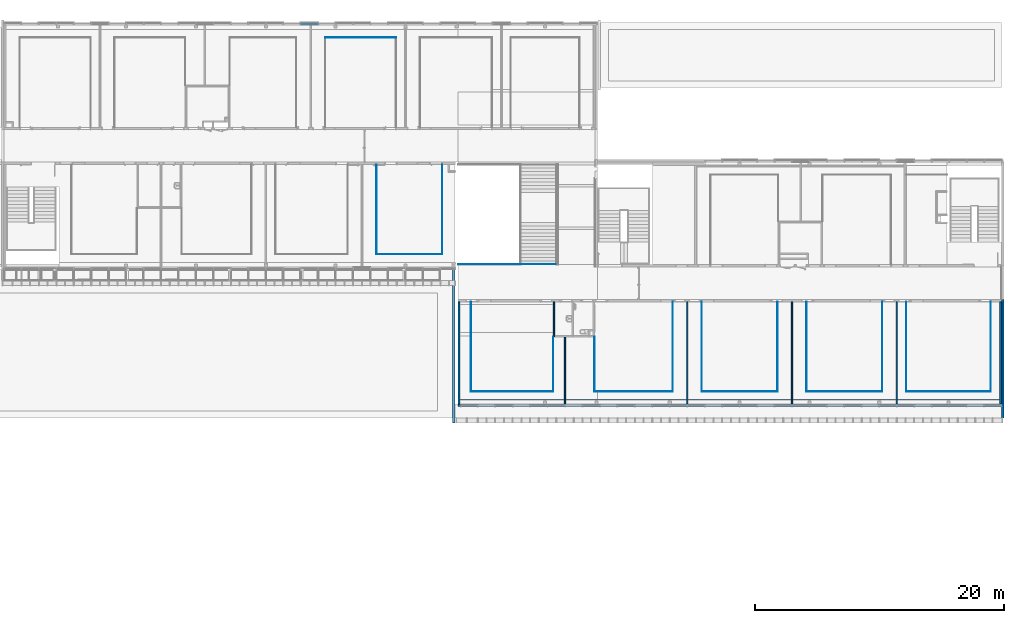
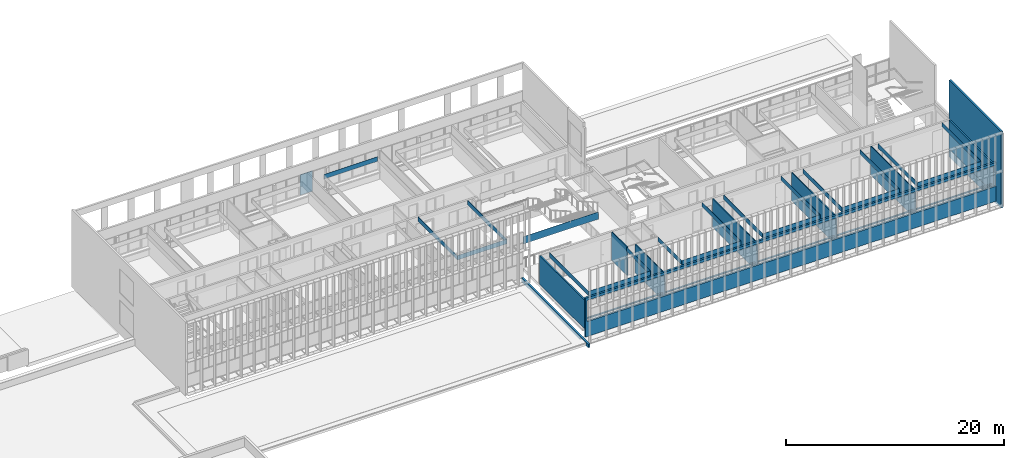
# One storey, part 64 of 106: 32 walls, 3 openings.
"""IFC2X3 building model written with IfcOpenShell, lengths in centimetres."""

from ifc_helpers import new_model, entity, si_unit, converted_unit, derived_unit, direction, frame, frame_2d, origin, origin_2d_with_axis, place, context, subcontext, project, spatial, polyline, rectangle, extrude, clip, bounded_halfspace, material, layer, layer_set, layer_usage, type_object, element, save


model = new_model("IFC2X3")

# Units and contexts
model_context = context("Model", 3, precision=0.001, world=origin(), true_north=direction((6.12303176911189e-17, 1.0)))
body_context = subcontext(model_context, "Body", "Model", "MODEL_VIEW")
ifc_project = project(units=[si_unit("LENGTHUNIT", "METRE", prefix="CENTI"), si_unit("AREAUNIT", "SQUARE_METRE"), si_unit("VOLUMEUNIT", "CUBIC_METRE"), converted_unit("PLANEANGLEUNIT", "DEGREE", entity("IfcRatioMeasure", 0.0174532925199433), si_unit("PLANEANGLEUNIT", "RADIAN"), dimensions=[0, 0, 0, 0, 0, 0, 0]), si_unit("MASSUNIT", "GRAM", prefix="KILO"), derived_unit("MASSDENSITYUNIT", [(si_unit("MASSUNIT", "GRAM", prefix="KILO"), 1), (si_unit("LENGTHUNIT", "METRE"), -3)]), si_unit("TIMEUNIT", "SECOND"), si_unit("FREQUENCYUNIT", "HERTZ"), si_unit("THERMODYNAMICTEMPERATUREUNIT", "DEGREE_CELSIUS"), derived_unit("THERMALTRANSMITTANCEUNIT", [(si_unit("MASSUNIT", "GRAM", prefix="KILO"), 1), (si_unit("THERMODYNAMICTEMPERATUREUNIT", "KELVIN"), -1), (si_unit("TIMEUNIT", "SECOND"), -3)]), derived_unit("VOLUMETRICFLOWRATEUNIT", [(si_unit("LENGTHUNIT", "METRE"), 3), (si_unit("TIMEUNIT", "SECOND"), -1)]), si_unit("ELECTRICCURRENTUNIT", "AMPERE"), si_unit("ELECTRICVOLTAGEUNIT", "VOLT"), si_unit("POWERUNIT", "WATT"), si_unit("FORCEUNIT", "NEWTON", prefix="KILO"), si_unit("ILLUMINANCEUNIT", "LUX"), si_unit("LUMINOUSFLUXUNIT", "LUMEN"), si_unit("LUMINOUSINTENSITYUNIT", "CANDELA"), derived_unit("USERDEFINED", [(si_unit("MASSUNIT", "GRAM", prefix="KILO"), -1), (si_unit("LENGTHUNIT", "METRE"), -2), (si_unit("TIMEUNIT", "SECOND"), 3), (si_unit("LUMINOUSFLUXUNIT", "LUMEN"), 1)]), derived_unit("LINEARVELOCITYUNIT", [(si_unit("LENGTHUNIT", "METRE"), 1), (si_unit("TIMEUNIT", "SECOND"), -1)]), si_unit("PRESSUREUNIT", "PASCAL"), derived_unit("USERDEFINED", [(si_unit("LENGTHUNIT", "METRE"), -2), (si_unit("MASSUNIT", "GRAM", prefix="KILO"), 1), (si_unit("TIMEUNIT", "SECOND"), -2)])], contexts=[model_context])

# Site, building, storey
site_placement = place(None, frame((-2781.94577612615, 7442.24238424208, 0.0)))
site = spatial("IfcSite", under=ifc_project, at=site_placement, Name="Default", CompositionType="ELEMENT")
building_placement = place(site_placement, origin())
building = spatial("IfcBuilding", under=site, at=building_placement, CompositionType="ELEMENT")
storey_placement = place(building_placement, frame((0.0, 0.0, 422.0)))
storey = spatial("IfcBuildingStorey", under=building, at=storey_placement, Name="Toiture - Cuisine", CompositionType="ELEMENT", Elevation=421.999999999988)

# Wall, opening
ifc_material_1 = material(Name="Aluminium bardage")
ifc_layer_1 = layer(ifc_material_1, 0.5)
ifc_material_2 = material(Name="01 - Lame d'air")
ifc_layer_2 = layer(ifc_material_2, 1.5)
ifc_material_3 = material(Name="00 - Isolant")
ifc_layer_3 = layer(ifc_material_3, 18.0)
ifc_layer_set_1 = layer_set([ifc_layer_1, ifc_layer_2, ifc_layer_3], Name="Mur de base:04 - Parement - ITE 18cm + vide 2cm")
ifc_layer_usage_1 = layer_usage(ifc_layer_set_1, "AXIS2", "POSITIVE", -10.0)
wall_type_1 = type_object("IfcWallType", Name="Mur de base:04 - Parement - ITE 18cm + vide 2cm", PredefinedType="STANDARD", material=ifc_layer_set_1)
wall_1_placement = place(building_placement, frame((-4767.99987760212, -3040.31349958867, 338.0)))
wall_1 = element("IfcWallStandardCase", 1, at=wall_1_placement, inside=storey, type_object=wall_type_1, material=ifc_layer_usage_1, Name="Mur de base:04 - Parement - ITE 18cm + vide 2cm", ObjectType="Mur de base:04 - Parement - ITE 18cm + vide 2cm", context=body_context, shape_type="Clipping", body=[
    clip(extrude(rectangle(XDim=4357.99999476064, YDim=19.9999999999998, at=frame_2d((2178.99999738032, -2.66453525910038e-15), x_axis=(-1.0, 0.0))), origin(), (0.0, 0.0, 1.0), 436.0), bounded_halfspace(frame((4358.0, -10.0, 0.0), z_axis=(0.0, 0.0, 1.0), x_axis=(0.0, 1.0, 0.0)), True, frame((4358.0, -10.0, 0.0), z_axis=(0.0, 0.0, 1.0), x_axis=(0.0, 1.0, 0.0)), polyline([(0.0, 0.0), (20.0, 0.0), (20.0, 4358.0), (0.0, 4358.0), (0.0, 0.0)]))),
])
opening_1_placement = place(wall_1_placement, origin())
element("IfcOpeningElement", 2, at=opening_1_placement, cuts=wall_1, Name="Mur de base:04 - Parement - ITE 18cm + vide 2cm", ObjectType="Opening", context=body_context, shape_type="SweptSolid", body=[
    extrude(rectangle(XDim=237.499999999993, YDim=4340.30000003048, at=origin_2d_with_axis()), frame((2187.8499947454, -25.2400000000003, 286.250000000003), z_axis=(0.0, 1.0, 0.0), x_axis=(0.0, 0.0, 1.0)), (0.0, 0.0, 1.0), 50.4800000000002),
])

# Walls
ifc_layer_4 = layer(ifc_material_3, 14.0)
ifc_material_4 = material(Name="01 - Enduit/Plâtre")
ifc_layer_5 = layer(ifc_material_4, 1.3)
ifc_layer_set_2 = layer_set([ifc_layer_4, ifc_layer_5], Name="Mur de base:04 - Parement -  isolant 14 cm + BA13")
ifc_layer_usage_2 = layer_usage(ifc_layer_set_2, "AXIS2", "NEGATIVE", 7.65)
wall_type_2 = type_object("IfcWallType", Name="Mur de base:04 - Parement -  isolant 14 cm + BA13", PredefinedType="STANDARD", material=ifc_layer_set_2)
wall_2_placement = place(building_placement, frame((-4760.34987760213, -3030.31349958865, 422.0), z_axis=(0.0, 0.0, 1.0), x_axis=(0.0, 1.0, 0.0)))
element("IfcWallStandardCase", 3, at=wall_2_placement, inside=storey, type_object=wall_type_2, material=ifc_layer_usage_2, Name="Mur de base:04 - Parement -  isolant 14 cm + BA13", ObjectType="Mur de base:04 - Parement -  isolant 14 cm + BA13", context=body_context, shape_type="Clipping", body=[
    clip(extrude(rectangle(XDim=820.156932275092, YDim=15.3, at=frame_2d((410.078466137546, -2.08721928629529e-13), x_axis=(-1.0, 0.0))), origin(), (0.0, 0.0, 1.0), 321.0), bounded_halfspace(frame((20.0, -7.64999999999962, 321.0), z_axis=(0.0, 0.0, -1.0), x_axis=(1.0, 0.0, 0.0)), True, frame((20.0, -7.64999999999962, 321.0)), polyline([(0.0, 0.0), (800.15693227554, 0.0), (800.15693227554, 15.2999999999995), (0.0, 15.3), (0.0, 0.0)]))),
])
ifc_layer_usage_3 = layer_usage(ifc_layer_set_2, "AXIS2", "NEGATIVE", 7.65)
wall_3_placement = place(building_placement, frame((-417.649882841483, -2210.15656731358, 422.0), z_axis=(0.0, 0.0, 1.0), x_axis=(0.0, -1.0, 0.0)))
element("IfcWallStandardCase", 4, at=wall_3_placement, inside=storey, type_object=wall_type_2, material=ifc_layer_usage_3, Name="Mur de base:04 - Parement -  isolant 14 cm + BA13", ObjectType="Mur de base:04 - Parement -  isolant 14 cm + BA13", context=body_context, shape_type="Clipping", body=[
    clip(extrude(rectangle(XDim=820.156932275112, YDim=15.3, at=frame_2d((410.078466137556, -1.11022302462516e-14), x_axis=(-1.0, 0.0))), origin(), (0.0, 0.0, 1.0), 321.0), bounded_halfspace(frame((0.0, -7.64999999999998, 321.0), z_axis=(0.0, 0.0, -1.0), x_axis=(-1.0, 0.0, 0.0)), True, frame((0.0, -7.64999999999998, 321.0)), polyline([(0.0, 0.0), (800.156932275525, 0.0), (800.156932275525, 15.2999999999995), (0.0, 15.3), (0.0, 0.0)]))),
])

# Wall, openings
ifc_material_5 = material(Name="01 - Maçonnerie")
ifc_layer_6 = layer(ifc_material_5, 20.0)
ifc_layer_set_3 = layer_set([ifc_layer_6], Name="Mur de base:04 - Structure - béton - 20cm")
ifc_layer_usage_4 = layer_usage(ifc_layer_set_3, "AXIS2", "NEGATIVE", 10.0)
wall_type_3 = type_object("IfcWallType", Name="Mur de base:04 - Structure - béton - 20cm", PredefinedType="STANDARD", material=ifc_layer_set_3)
wall_4_placement = place(building_placement, frame((-399.999882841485, -3140.31349958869, 313.0), z_axis=(0.0, 0.0, 1.0), x_axis=(0.0, 1.0, 0.0)))
wall_4 = element("IfcWallStandardCase", 5, at=wall_4_placement, inside=storey, type_object=wall_type_3, material=ifc_layer_usage_4, Name="Mur de base:04 - Structure - béton - 20cm", ObjectType="Mur de base:04 - Structure - béton - 20cm", context=body_context, shape_type="SweptSolid", body=[
    extrude(rectangle(XDim=950.2344659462, YDim=20.0, at=frame_2d((475.1172329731, 0.0), x_axis=(-1.0, 0.0))), origin(), (0.0, 0.0, 1.0), 863.0),
])
opening_2_placement = place(wall_4_placement, origin())
element("IfcOpeningElement", 6, at=opening_2_placement, cuts=wall_4, Name="Mur de base:04 - Structure - béton - 20cm", ObjectType="Opening", context=body_context, shape_type="SweptSolid", body=[
    extrude(rectangle(XDim=270.0, YDim=260.077533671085, at=frame_2d((-4.2632564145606e-14, -9.9475983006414e-14), x_axis=(1.0, 0.0))), frame((1080.19569911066, -162.399999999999, 244.0), z_axis=(0.0, 1.0, 0.0), x_axis=(0.0, 0.0, 1.0)), (0.0, 0.0, 1.0), 304.8),
])
opening_3_placement = place(wall_4_placement, origin())
element("IfcOpeningElement", 7, at=opening_3_placement, cuts=wall_4, Name="Mur de base:04 - Structure - béton - 20cm", ObjectType="Opening", context=body_context, shape_type="SweptSolid", body=[
    extrude(rectangle(XDim=270.0, YDim=260.0, at=frame_2d((2.27373675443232e-13, 0.0), x_axis=(0.0, 1.0))), frame((1080.2344659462, -162.400000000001, 596.0), z_axis=(0.0, 1.0, 0.0), x_axis=(-1.0, 0.0, 0.0)), (0.0, 0.0, 1.0), 304.8),
])

# Walls
ifc_layer_usage_5 = layer_usage(ifc_layer_set_3, "AXIS2", "NEGATIVE", 10.0)
wall_5_placement = place(building_placement, frame((-4801.99987760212, -1950.07903364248, 313.0), z_axis=(0.0, 0.0, 1.0), x_axis=(0.0, -1.0, 0.0)))
element("IfcWallStandardCase", 8, at=wall_5_placement, inside=storey, type_object=wall_type_3, material=ifc_layer_usage_5, Name="Mur de base:04 - Structure - béton - 20cm", ObjectType="Mur de base:04 - Structure - béton - 20cm", context=body_context, shape_type="Clipping", body=[
    clip(extrude(rectangle(XDim=1230.2344659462, YDim=20.0000000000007, at=frame_2d((615.117232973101, 1.19904086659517e-13), x_axis=(-1.0, 0.0))), origin(), (0.0, 0.0, 1.0), 40.0), bounded_halfspace(frame((1190.2344659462, 10.0, 25.0), z_axis=(0.0, 0.0, 1.0), x_axis=(-1.0, 0.0, 0.0)), True, frame((1190.2344659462, 10.0, 25.0), z_axis=(0.0, 0.0, 1.0), x_axis=(-1.0, 0.0, 0.0)), polyline([(0.0, 0.0), (110.0, 0.0), (110.0, 20.0), (0.0, 20.0), (0.0, 0.0)]))),
])
ifc_layer_7 = layer(ifc_material_4, 1.3)
ifc_layer_8 = layer(ifc_material_3, 7.4)
ifc_layer_9 = layer(ifc_material_4, 1.3)
ifc_layer_set_4 = layer_set([ifc_layer_7, ifc_layer_8, ifc_layer_9], Name="Mur de base:06 - cloisons - Ba13 10cm")
ifc_layer_usage_6 = layer_usage(ifc_layer_set_4, "AXIS2", "NEGATIVE", 5.0)
wall_type_4 = type_object("IfcWallType", Name="Mur de base:06 - cloisons - Ba13 10cm", PredefinedType="STANDARD", material=ifc_layer_set_4)
wall_6_placement = place(building_placement, frame((-1250.29988284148, -2210.15656731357, 422.0), z_axis=(0.0, 0.0, 1.0), x_axis=(0.0, -1.0, 0.0)))
element("IfcWallStandardCase", 9, at=wall_6_placement, inside=storey, type_object=wall_type_4, material=ifc_layer_usage_6, Name="Mur de base:06 - cloisons - Ba13 10cm", ObjectType="Mur de base:06 - cloisons - Ba13 10cm", context=body_context, shape_type="Clipping", body=[
    clip(extrude(rectangle(XDim=820.156932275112, YDim=9.99999999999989, at=frame_2d((410.078466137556, 2.30926389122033e-14), x_axis=(-1.0, 0.0))), origin(), (0.0, 0.0, 1.0), 321.0), bounded_halfspace(frame((0.0, -5.0, 321.0), z_axis=(0.0, 0.0, -1.0), x_axis=(-1.0, 0.0, 0.0)), True, frame((0.0, -5.0, 321.0)), polyline([(0.0, 0.0), (800.156932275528, 0.0), (800.156932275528, 10.0), (0.0, 10.0), (0.0, 0.0)]))),
])
ifc_layer_usage_7 = layer_usage(ifc_layer_set_4, "AXIS2", "NEGATIVE", 5.0)
wall_7_placement = place(building_placement, frame((-2090.29988284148, -2210.15656731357, 422.0), z_axis=(0.0, 0.0, 1.0), x_axis=(0.0, -1.0, 0.0)))
element("IfcWallStandardCase", 10, at=wall_7_placement, inside=storey, type_object=wall_type_4, material=ifc_layer_usage_7, Name="Mur de base:06 - cloisons - Ba13 10cm", ObjectType="Mur de base:06 - cloisons - Ba13 10cm", context=body_context, shape_type="Clipping", body=[
    clip(extrude(rectangle(XDim=820.156932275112, YDim=10.0000000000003, at=frame_2d((410.078466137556, 1.59872115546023e-14), x_axis=(-1.0, 0.0))), origin(), (0.0, 0.0, 1.0), 321.0), bounded_halfspace(frame((0.0, -5.0, 321.0), z_axis=(0.0, 0.0, -1.0), x_axis=(-1.0, 0.0, 0.0)), True, frame((0.0, -5.0, 321.0)), polyline([(0.0, 0.0), (800.156932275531, 0.0), (800.156932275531, 10.0), (0.0, 10.0), (0.0, 0.0)]))),
])
ifc_layer_usage_8 = layer_usage(ifc_layer_set_4, "AXIS2", "NEGATIVE", 5.0)
wall_8_placement = place(building_placement, frame((-2930.29988284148, -2210.15656731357, 422.0), z_axis=(0.0, 0.0, 1.0), x_axis=(0.0, -1.0, 0.0)))
element("IfcWallStandardCase", 11, at=wall_8_placement, inside=storey, type_object=wall_type_4, material=ifc_layer_usage_8, Name="Mur de base:06 - cloisons - Ba13 10cm", ObjectType="Mur de base:06 - cloisons - Ba13 10cm", context=body_context, shape_type="Clipping", body=[
    clip(extrude(rectangle(XDim=820.156932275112, YDim=10.0000000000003, at=frame_2d((410.078466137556, 1.59872115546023e-14), x_axis=(-1.0, 0.0))), origin(), (0.0, 0.0, 1.0), 321.0), bounded_halfspace(frame((0.0, -5.0, 321.0), z_axis=(0.0, 0.0, -1.0), x_axis=(-1.0, 0.0, 0.0)), True, frame((0.0, -5.0, 321.0)), polyline([(0.0, 0.0), (800.156932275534, 0.0), (800.156932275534, 10.0), (0.0, 10.0), (0.0, 0.0)]))),
])
ifc_layer_usage_9 = layer_usage(ifc_layer_set_4, "AXIS2", "NEGATIVE", 5.0)
wall_9_placement = place(building_placement, frame((-3999.19987760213, -2210.15656731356, 422.0), z_axis=(0.0, 0.0, 1.0), x_axis=(0.0, -1.0, 0.0)))
element("IfcWallStandardCase", 12, at=wall_9_placement, inside=storey, type_object=wall_type_4, material=ifc_layer_usage_9, Name="Mur de base:06 - cloisons - Ba13 10cm", ObjectType="Mur de base:06 - cloisons - Ba13 10cm", context=body_context, shape_type="Clipping", body=[
    clip(extrude(rectangle(XDim=280.0, YDim=9.99999999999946, at=frame_2d((140.0, 0.0), x_axis=(-1.0, 0.0))), origin(), (0.0, 0.0, 1.0), 321.0), bounded_halfspace(frame((0.0, -5.0, 321.0), z_axis=(0.0, 0.0, -1.0), x_axis=(-1.0, 0.0, 0.0)), True, frame((0.0, -5.0, 321.0)), polyline([(0.0, 0.0), (280.0, 0.0), (280.0, 10.0), (270.0, 10.0), (0.0, 10.0), (0.0, 0.0)]))),
])
ifc_layer_usage_10 = layer_usage(ifc_layer_set_4, "AXIS2", "NEGATIVE", 5.0)
wall_10_placement = place(building_placement, frame((-3910.29988284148, -3030.31349958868, 422.0), z_axis=(0.0, 0.0, 1.0), x_axis=(0.0, 1.0, 0.0)))
element("IfcWallStandardCase", 13, at=wall_10_placement, inside=storey, type_object=wall_type_4, material=ifc_layer_usage_10, Name="Mur de base:06 - cloisons - Ba13 10cm", ObjectType="Mur de base:06 - cloisons - Ba13 10cm", context=body_context, shape_type="Clipping", body=[
    clip(extrude(rectangle(XDim=540.156932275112, YDim=9.99999999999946, at=frame_2d((270.078466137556, -3.5527136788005e-15), x_axis=(-1.0, 0.0))), origin(), (0.0, 0.0, 1.0), 321.0), bounded_halfspace(frame((20.0, -5.0, 321.0), z_axis=(0.0, 0.0, -1.0), x_axis=(1.0, 0.0, 0.0)), True, frame((20.0, -5.0, 321.0)), polyline([(0.0, 0.0), (520.156932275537, 0.0), (520.156932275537, 10.0), (0.0, 10.0), (0.0, 0.0)]))),
])
ifc_layer_10 = layer(ifc_material_4, 1.3)
ifc_material_6 = material(Name="00 - VIDE D'AIR")
ifc_layer_11 = layer(ifc_material_6, 0.7)
ifc_layer_set_5 = layer_set([ifc_layer_10, ifc_layer_11], Name="Mur de base:06 - habillage Ba13 collée 2cm")
ifc_layer_usage_11 = layer_usage(ifc_layer_set_5, "AXIS2", "NEGATIVE", 1.0)
wall_type_5 = type_object("IfcWallType", Name="Mur de base:06 - habillage Ba13 collée 2cm", PredefinedType="STANDARD", material=ifc_layer_set_5)
wall_11_placement = place(building_placement, frame((-4767.99987760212, -1909.07903364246, 692.0)))
element("IfcWallStandardCase", 14, at=wall_11_placement, inside=storey, type_object=wall_type_5, material=ifc_layer_usage_11, Name="Mur de base:06 - habillage Ba13 collée 2cm", ObjectType="Mur de base:06 - habillage Ba13 collée 2cm", context=body_context, shape_type="SweptSolid", body=[
    extrude(rectangle(XDim=797.999997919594, YDim=1.99999999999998, at=frame_2d((398.999998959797, -8.04911692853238e-15), x_axis=(-1.0, 0.0))), origin(), (0.0, 0.0, 1.0), 82.0),
])
ifc_layer_usage_12 = layer_usage(ifc_layer_set_5, "AXIS2", "POSITIVE", -1.0)
wall_12_placement = place(building_placement, frame((-5263.78697672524, -91.0, 692.0), z_axis=(0.0, 0.0, 1.0), x_axis=(-1.0, 0.0, 0.0)))
element("IfcWallStandardCase", 15, at=wall_12_placement, inside=storey, type_object=wall_type_5, material=ifc_layer_usage_12, Name="Mur de base:06 - habillage Ba13 collée 2cm", ObjectType="Mur de base:06 - habillage Ba13 collée 2cm", context=body_context, shape_type="Clipping", body=[
    clip(extrude(rectangle(XDim=570.012902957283, YDim=2.00000000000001, at=frame_2d((285.006451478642, 4.44089209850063e-16), x_axis=(-1.0, 0.0))), origin(), (0.0, 0.0, 1.0), 50.9999999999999), bounded_halfspace(frame((0.0, -1.0, 51.0), z_axis=(0.0, 0.0, -1.0), x_axis=(0.0, -1.0, 0.0)), True, frame((0.0, -1.0, 51.0)), polyline([(0.0, 0.0), (570.012902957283, 0.0), (570.012902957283, 2.0), (568.012902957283, 2.0), (2.0, 2.0), (0.0, 2.0), (0.0, 0.0)]))),
])
ifc_layer_usage_13 = layer_usage(ifc_layer_set_5, "AXIS2", "POSITIVE", -1.0)
wall_13_placement = place(building_placement, frame((-4895.49987760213, -1830.07903364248, 692.0), z_axis=(0.0, 0.0, 1.0), x_axis=(0.0, 1.0, 0.0)))
element("IfcWallStandardCase", 16, at=wall_13_placement, inside=storey, type_object=wall_type_5, material=ifc_layer_usage_13, Name="Mur de base:06 - habillage Ba13 collée 2cm", ObjectType="Mur de base:06 - habillage Ba13 collée 2cm", context=body_context, shape_type="Clipping", body=[
    clip(extrude(rectangle(XDim=720.079033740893, YDim=1.99999999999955, at=frame_2d((360.039516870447, -5.93969318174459e-15), x_axis=(-1.0, 0.0))), origin(), (0.0, 0.0, 1.0), 50.9999999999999), bounded_halfspace(frame((0.0, -1.0, 51.0), z_axis=(0.0, 0.0, -1.0), x_axis=(1.0, 0.0, 0.0)), True, frame((0.0, -1.0, 51.0)), polyline([(0.0, 0.0), (720.079033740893, 0.0), (720.079033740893, 2.0), (2.0, 2.0), (0.0, 2.0), (0.0, 0.0)]))),
])
ifc_layer_usage_14 = layer_usage(ifc_layer_set_5, "AXIS2", "POSITIVE", -1.0)
wall_14_placement = place(building_placement, frame((-5421.49987760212, -1110.0, 692.0), z_axis=(0.0, 0.0, 1.0), x_axis=(0.0, -1.0, 0.0)))
element("IfcWallStandardCase", 17, at=wall_14_placement, inside=storey, type_object=wall_type_5, material=ifc_layer_usage_14, Name="Mur de base:06 - habillage Ba13 collée 2cm", ObjectType="Mur de base:06 - habillage Ba13 collée 2cm", context=body_context, shape_type="Clipping", body=[
    clip(extrude(rectangle(XDim=720.079033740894, YDim=1.99999999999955, at=frame_2d((360.039516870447, -5.93969318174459e-15), x_axis=(-1.0, 0.0))), origin(), (0.0, 0.0, 1.0), 50.9999999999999), bounded_halfspace(frame((0.0, -1.0, 51.0), z_axis=(0.0, 0.0, -1.0), x_axis=(-1.0, 0.0, 0.0)), True, frame((0.0, -1.0, 51.0)), polyline([(0.0, 0.0), (720.079033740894, 0.0), (720.079033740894, 2.0), (718.079033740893, 2.0), (0.0, 2.0), (0.0, 0.0)]))),
])
ifc_layer_usage_15 = layer_usage(ifc_layer_set_5, "AXIS2", "NEGATIVE", 1.0)
wall_15_placement = place(building_placement, frame((-5420.49987760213, -1829.07903364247, 692.0)))
element("IfcWallStandardCase", 18, at=wall_15_placement, inside=storey, type_object=wall_type_5, material=ifc_layer_usage_15, Name="Mur de base:06 - habillage Ba13 collée 2cm", ObjectType="Mur de base:06 - habillage Ba13 collée 2cm", context=body_context, shape_type="Clipping", body=[
    clip(extrude(rectangle(XDim=523.999999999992, YDim=1.99999999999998, at=frame_2d((261.999999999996, 6.16728890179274e-14), x_axis=(-1.0, 0.0))), origin(), (0.0, 0.0, 1.0), 50.9999999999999), bounded_halfspace(frame((0.0, -1.0, 51.0), z_axis=(0.0, 0.0, -1.0), x_axis=(0.0, 1.0, 0.0)), True, frame((0.0, -1.0, 51.0)), polyline([(0.0, 0.0), (524.0, 0.0), (524.0, 2.0), (0.0, 2.0), (0.0, 0.0)]))),
])
ifc_layer_usage_16 = layer_usage(ifc_layer_set_5, "AXIS2", "POSITIVE", -1.0)
wall_16_placement = place(building_placement, frame((-4664.19987760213, -2929.31349958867, 692.0)))
element("IfcWallStandardCase", 19, at=wall_16_placement, inside=storey, type_object=wall_type_5, material=ifc_layer_usage_16, Name="Mur de base:06 - habillage Ba13 collée 2cm", ObjectType="Mur de base:06 - habillage Ba13 collée 2cm", context=body_context, shape_type="Clipping", body=[
    clip(extrude(rectangle(XDim=658.000000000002, YDim=2.00000000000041, at=frame_2d((329.000000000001, 5.60662627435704e-14), x_axis=(-1.0, 0.0))), origin(), (0.0, 0.0, 1.0), 50.9999999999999), bounded_halfspace(frame((0.0, -1.0, 51.0), z_axis=(0.0, 0.0, -1.0), x_axis=(0.0, 1.0, 0.0)), True, frame((0.0, -1.0, 51.0)), polyline([(0.0, 0.0), (658.0, 0.0), (658.0, 2.0), (2.0, 2.0), (0.0, 2.0), (0.0, 0.0)]))),
])
ifc_layer_usage_17 = layer_usage(ifc_layer_set_5, "AXIS2", "POSITIVE", -1.0)
wall_17_placement = place(building_placement, frame((-4005.19987760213, -2930.31349958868, 692.0), z_axis=(0.0, 0.0, 1.0), x_axis=(0.0, 1.0, 0.0)))
element("IfcWallStandardCase", 20, at=wall_17_placement, inside=storey, type_object=wall_type_5, material=ifc_layer_usage_17, Name="Mur de base:06 - habillage Ba13 collée 2cm", ObjectType="Mur de base:06 - habillage Ba13 collée 2cm", context=body_context, shape_type="Clipping", body=[
    clip(extrude(rectangle(XDim=440.156932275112, YDim=1.99999999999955, at=frame_2d((220.078466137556, 9.43689570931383e-16), x_axis=(-1.0, 0.0))), origin(), (0.0, 0.0, 1.0), 50.9999999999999), bounded_halfspace(frame((0.0, -1.0, 51.0), z_axis=(0.0, 0.0, -1.0), x_axis=(1.0, 0.0, 0.0)), True, frame((0.0, -1.0, 51.0)), polyline([(0.0, 0.0), (440.156932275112, 0.0), (440.156932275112, 2.0), (2.0, 2.0), (0.0, 2.0), (0.0, 0.0)]))),
])
ifc_layer_usage_18 = layer_usage(ifc_layer_set_5, "AXIS2", "POSITIVE", -1.0)
wall_18_placement = place(building_placement, frame((-4663.19987760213, -2210.15656731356, 692.0), z_axis=(0.0, 0.0, 1.0), x_axis=(0.0, -1.0, 0.0)))
element("IfcWallStandardCase", 21, at=wall_18_placement, inside=storey, type_object=wall_type_5, material=ifc_layer_usage_18, Name="Mur de base:06 - habillage Ba13 collée 2cm", ObjectType="Mur de base:06 - habillage Ba13 collée 2cm", context=body_context, shape_type="Clipping", body=[
    clip(extrude(rectangle(XDim=718.156932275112, YDim=1.99999999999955, at=frame_2d((359.078466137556, 1.84297022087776e-14), x_axis=(-1.0, 0.0))), origin(), (0.0, 0.0, 1.0), 50.9999999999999), bounded_halfspace(frame((0.0, -1.0, 51.0), z_axis=(0.0, 0.0, -1.0), x_axis=(-1.0, 0.0, 0.0)), True, frame((0.0, -1.0, 51.0)), polyline([(0.0, 0.0), (718.156932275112, 0.0), (718.156932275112, 2.0), (0.0, 2.0), (0.0, 0.0)]))),
])
ifc_layer_usage_19 = layer_usage(ifc_layer_set_5, "AXIS2", "POSITIVE", -1.0)
wall_19_placement = place(building_placement, frame((-3675.29988284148, -2929.31349958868, 692.0)))
element("IfcWallStandardCase", 22, at=wall_19_placement, inside=storey, type_object=wall_type_5, material=ifc_layer_usage_19, Name="Mur de base:06 - habillage Ba13 collée 2cm", ObjectType="Mur de base:06 - habillage Ba13 collée 2cm", context=body_context, shape_type="Clipping", body=[
    clip(extrude(rectangle(XDim=627.999999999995, YDim=2.00000000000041, at=frame_2d((313.999999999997, 4.10782519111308e-15), x_axis=(-1.0, 0.0))), origin(), (0.0, 0.0, 1.0), 50.9999999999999), bounded_halfspace(frame((0.0, -1.0, 51.0), z_axis=(0.0, 0.0, -1.0), x_axis=(0.0, 1.0, 0.0)), True, frame((0.0, -1.0, 51.0)), polyline([(0.0, 0.0), (628.0, 0.0), (628.0, 2.0), (2.0, 2.0), (0.0, 2.0), (0.0, 0.0)]))),
])
ifc_layer_usage_20 = layer_usage(ifc_layer_set_5, "AXIS2", "POSITIVE", -1.0)
wall_20_placement = place(building_placement, frame((-3046.29988284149, -2930.31349958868, 692.0), z_axis=(0.0, 0.0, 1.0), x_axis=(0.0, 1.0, 0.0)))
element("IfcWallStandardCase", 23, at=wall_20_placement, inside=storey, type_object=wall_type_5, material=ifc_layer_usage_20, Name="Mur de base:06 - habillage Ba13 collée 2cm", ObjectType="Mur de base:06 - habillage Ba13 collée 2cm", context=body_context, shape_type="Clipping", body=[
    clip(extrude(rectangle(XDim=720.156932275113, YDim=2.00000000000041, at=frame_2d((360.078466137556, 1.37667655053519e-14), x_axis=(-1.0, 0.0))), origin(), (0.0, 0.0, 1.0), 50.9999999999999), bounded_halfspace(frame((0.0, -1.0, 51.0), z_axis=(0.0, 0.0, -1.0), x_axis=(1.0, 0.0, 0.0)), True, frame((0.0, -1.0, 51.0)), polyline([(0.0, 0.0), (720.156932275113, 0.0), (720.156932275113, 2.0), (2.0, 2.0), (0.0, 2.0), (0.0, 0.0)]))),
])
ifc_layer_usage_21 = layer_usage(ifc_layer_set_5, "AXIS2", "POSITIVE", -1.0)
wall_21_placement = place(building_placement, frame((-3674.29988284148, -2490.15656731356, 692.0), z_axis=(0.0, 0.0, 1.0), x_axis=(0.0, -1.0, 0.0)))
element("IfcWallStandardCase", 24, at=wall_21_placement, inside=storey, type_object=wall_type_5, material=ifc_layer_usage_21, Name="Mur de base:06 - habillage Ba13 collée 2cm", ObjectType="Mur de base:06 - habillage Ba13 collée 2cm", context=body_context, shape_type="Clipping", body=[
    clip(extrude(rectangle(XDim=438.156932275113, YDim=2.00000000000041, at=frame_2d((219.078466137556, 5.55111512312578e-16), x_axis=(-1.0, 0.0))), origin(), (0.0, 0.0, 1.0), 50.9999999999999), bounded_halfspace(frame((0.0, -1.0, 51.0), z_axis=(0.0, 0.0, -1.0), x_axis=(-1.0, 0.0, 0.0)), True, frame((0.0, -1.0, 51.0)), polyline([(0.0, 0.0), (438.156932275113, 0.0), (438.156932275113, 2.0), (0.0, 2.0), (0.0, 0.0)]))),
])
ifc_layer_usage_22 = layer_usage(ifc_layer_set_5, "AXIS2", "POSITIVE", -1.0)
wall_22_placement = place(building_placement, frame((-2815.29988284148, -2929.31349958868, 692.0)))
element("IfcWallStandardCase", 25, at=wall_22_placement, inside=storey, type_object=wall_type_5, material=ifc_layer_usage_22, Name="Mur de base:06 - habillage Ba13 collée 2cm", ObjectType="Mur de base:06 - habillage Ba13 collée 2cm", context=body_context, shape_type="Clipping", body=[
    clip(extrude(rectangle(XDim=607.999999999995, YDim=2.00000000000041, at=frame_2d((303.999999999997, -3.05311331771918e-14), x_axis=(-1.0, 0.0))), origin(), (0.0, 0.0, 1.0), 50.9999999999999), bounded_halfspace(frame((0.0, -1.0, 51.0), z_axis=(0.0, 0.0, -1.0), x_axis=(0.0, 1.0, 0.0)), True, frame((0.0, -1.0, 51.0)), polyline([(0.0, 0.0), (608.0, 0.0), (608.0, 2.0), (2.0, 2.0), (0.0, 2.0), (0.0, 0.0)]))),
])
ifc_layer_usage_23 = layer_usage(ifc_layer_set_5, "AXIS2", "POSITIVE", -1.0)
wall_23_placement = place(building_placement, frame((-2206.29988284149, -2930.31349958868, 692.0), z_axis=(0.0, 0.0, 1.0), x_axis=(0.0, 1.0, 0.0)))
element("IfcWallStandardCase", 26, at=wall_23_placement, inside=storey, type_object=wall_type_5, material=ifc_layer_usage_23, Name="Mur de base:06 - habillage Ba13 collée 2cm", ObjectType="Mur de base:06 - habillage Ba13 collée 2cm", context=body_context, shape_type="Clipping", body=[
    clip(extrude(rectangle(XDim=720.156932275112, YDim=2.00000000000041, at=frame_2d((360.078466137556, 1.37667655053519e-14), x_axis=(-1.0, 0.0))), origin(), (0.0, 0.0, 1.0), 50.9999999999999), bounded_halfspace(frame((0.0, -1.0, 51.0), z_axis=(0.0, 0.0, -1.0), x_axis=(1.0, 0.0, 0.0)), True, frame((0.0, -1.0, 51.0)), polyline([(0.0, 0.0), (720.156932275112, 0.0), (720.156932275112, 2.0), (2.0, 2.0), (0.0, 2.0), (0.0, 0.0)]))),
])
ifc_layer_usage_24 = layer_usage(ifc_layer_set_5, "AXIS2", "POSITIVE", -1.0)
wall_24_placement = place(building_placement, frame((-2814.29988284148, -2210.15656731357, 692.0), z_axis=(0.0, 0.0, 1.0), x_axis=(0.0, -1.0, 0.0)))
element("IfcWallStandardCase", 27, at=wall_24_placement, inside=storey, type_object=wall_type_5, material=ifc_layer_usage_24, Name="Mur de base:06 - habillage Ba13 collée 2cm", ObjectType="Mur de base:06 - habillage Ba13 collée 2cm", context=body_context, shape_type="Clipping", body=[
    clip(extrude(rectangle(XDim=718.156932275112, YDim=2.00000000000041, at=frame_2d((359.078466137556, 1.84297022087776e-14), x_axis=(-1.0, 0.0))), origin(), (0.0, 0.0, 1.0), 50.9999999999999), bounded_halfspace(frame((0.0, -1.0, 51.0), z_axis=(0.0, 0.0, -1.0), x_axis=(-1.0, 0.0, 0.0)), True, frame((0.0, -1.0, 51.0)), polyline([(0.0, 0.0), (718.156932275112, 0.0), (718.156932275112, 2.0), (0.0, 2.0), (0.0, 0.0)]))),
])
ifc_layer_usage_25 = layer_usage(ifc_layer_set_5, "AXIS2", "POSITIVE", -1.0)
wall_25_placement = place(building_placement, frame((-1975.29988284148, -2929.31349958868, 692.0)))
element("IfcWallStandardCase", 28, at=wall_25_placement, inside=storey, type_object=wall_type_5, material=ifc_layer_usage_25, Name="Mur de base:06 - habillage Ba13 collée 2cm", ObjectType="Mur de base:06 - habillage Ba13 collée 2cm", context=body_context, shape_type="Clipping", body=[
    clip(extrude(rectangle(XDim=607.999999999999, YDim=2.00000000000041, at=frame_2d((304.0, -3.05311331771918e-14), x_axis=(-1.0, 0.0))), origin(), (0.0, 0.0, 1.0), 50.9999999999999), bounded_halfspace(frame((0.0, -1.0, 51.0), z_axis=(0.0, 0.0, -1.0), x_axis=(0.0, 1.0, 0.0)), True, frame((0.0, -1.0, 51.0)), polyline([(0.0, 0.0), (608.0, 0.0), (608.0, 2.0), (2.0, 2.0), (0.0, 2.0), (0.0, 0.0)]))),
])
ifc_layer_usage_26 = layer_usage(ifc_layer_set_5, "AXIS2", "POSITIVE", -1.0)
wall_26_placement = place(building_placement, frame((-1366.29988284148, -2930.31349958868, 692.0), z_axis=(0.0, 0.0, 1.0), x_axis=(0.0, 1.0, 0.0)))
element("IfcWallStandardCase", 29, at=wall_26_placement, inside=storey, type_object=wall_type_5, material=ifc_layer_usage_26, Name="Mur de base:06 - habillage Ba13 collée 2cm", ObjectType="Mur de base:06 - habillage Ba13 collée 2cm", context=body_context, shape_type="Clipping", body=[
    clip(extrude(rectangle(XDim=720.156932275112, YDim=1.99999999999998, at=frame_2d((360.078466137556, 1.37112543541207e-14), x_axis=(-1.0, 0.0))), origin(), (0.0, 0.0, 1.0), 50.9999999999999), bounded_halfspace(frame((0.0, -1.0, 51.0), z_axis=(0.0, 0.0, -1.0), x_axis=(1.0, 0.0, 0.0)), True, frame((0.0, -1.0, 51.0)), polyline([(0.0, 0.0), (720.156932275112, 0.0), (720.156932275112, 2.0), (2.0, 2.0), (0.0, 2.0), (0.0, 0.0)]))),
])
ifc_layer_usage_27 = layer_usage(ifc_layer_set_5, "AXIS2", "POSITIVE", -1.0)
wall_27_placement = place(building_placement, frame((-1974.29988284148, -2210.15656731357, 692.0), z_axis=(0.0, 0.0, 1.0), x_axis=(0.0, -1.0, 0.0)))
element("IfcWallStandardCase", 30, at=wall_27_placement, inside=storey, type_object=wall_type_5, material=ifc_layer_usage_27, Name="Mur de base:06 - habillage Ba13 collée 2cm", ObjectType="Mur de base:06 - habillage Ba13 collée 2cm", context=body_context, shape_type="Clipping", body=[
    clip(extrude(rectangle(XDim=718.156932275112, YDim=2.00000000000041, at=frame_2d((359.078466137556, 1.84297022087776e-14), x_axis=(-1.0, 0.0))), origin(), (0.0, 0.0, 1.0), 50.9999999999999), bounded_halfspace(frame((0.0, -1.0, 51.0), z_axis=(0.0, 0.0, -1.0), x_axis=(-1.0, 0.0, 0.0)), True, frame((0.0, -1.0, 51.0)), polyline([(0.0, 0.0), (718.156932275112, 0.0), (718.156932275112, 2.0), (0.0, 2.0), (0.0, 0.0)]))),
])
ifc_layer_usage_28 = layer_usage(ifc_layer_set_5, "AXIS2", "POSITIVE", -1.0)
wall_28_placement = place(building_placement, frame((-1175.29988284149, -2929.31349958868, 692.0)))
element("IfcWallStandardCase", 31, at=wall_28_placement, inside=storey, type_object=wall_type_5, material=ifc_layer_usage_28, Name="Mur de base:06 - habillage Ba13 collée 2cm", ObjectType="Mur de base:06 - habillage Ba13 collée 2cm", context=body_context, shape_type="Clipping", body=[
    clip(extrude(rectangle(XDim=678.0, YDim=2.00000000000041, at=frame_2d((339.0, 9.05941988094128e-14), x_axis=(-1.0, 0.0))), origin(), (0.0, 0.0, 1.0), 50.9999999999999), bounded_halfspace(frame((0.0, -1.0, 51.0), z_axis=(0.0, 0.0, -1.0), x_axis=(0.0, 1.0, 0.0)), True, frame((0.0, -1.0, 51.0)), polyline([(0.0, 0.0), (678.0, 0.0), (678.0, 2.0), (2.0, 2.0), (0.0, 2.0), (0.0, 0.0)]))),
])
ifc_layer_usage_29 = layer_usage(ifc_layer_set_5, "AXIS2", "POSITIVE", -1.0)
wall_29_placement = place(building_placement, frame((-496.299882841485, -2930.31349958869, 692.0), z_axis=(0.0, 0.0, 1.0), x_axis=(0.0, 1.0, 0.0)))
element("IfcWallStandardCase", 32, at=wall_29_placement, inside=storey, type_object=wall_type_5, material=ifc_layer_usage_29, Name="Mur de base:06 - habillage Ba13 collée 2cm", ObjectType="Mur de base:06 - habillage Ba13 collée 2cm", context=body_context, shape_type="Clipping", body=[
    clip(extrude(rectangle(XDim=720.156932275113, YDim=1.99999999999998, at=frame_2d((360.078466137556, 1.37112543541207e-14), x_axis=(-1.0, 0.0))), origin(), (0.0, 0.0, 1.0), 50.9999999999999), bounded_halfspace(frame((0.0, -1.0, 51.0), z_axis=(0.0, 0.0, -1.0), x_axis=(1.0, 0.0, 0.0)), True, frame((0.0, -1.0, 51.0)), polyline([(0.0, 0.0), (720.156932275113, 0.0), (720.156932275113, 2.0), (2.0, 2.0), (0.0, 2.0), (0.0, 0.0)]))),
])
ifc_layer_usage_30 = layer_usage(ifc_layer_set_5, "AXIS2", "POSITIVE", -1.0)
wall_30_placement = place(building_placement, frame((-1174.29988284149, -2210.15656731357, 692.0), z_axis=(0.0, 0.0, 1.0), x_axis=(0.0, -1.0, 0.0)))
element("IfcWallStandardCase", 33, at=wall_30_placement, inside=storey, type_object=wall_type_5, material=ifc_layer_usage_30, Name="Mur de base:06 - habillage Ba13 collée 2cm", ObjectType="Mur de base:06 - habillage Ba13 collée 2cm", context=body_context, shape_type="Clipping", body=[
    clip(extrude(rectangle(XDim=718.156932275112, YDim=1.99999999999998, at=frame_2d((359.078466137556, 1.83741910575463e-14), x_axis=(-1.0, 0.0))), origin(), (0.0, 0.0, 1.0), 50.9999999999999), bounded_halfspace(frame((0.0, -1.0, 51.0), z_axis=(0.0, 0.0, -1.0), x_axis=(-1.0, 0.0, 0.0)), True, frame((0.0, -1.0, 51.0)), polyline([(0.0, 0.0), (718.156932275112, 0.0), (718.156932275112, 2.0), (0.0, 2.0), (0.0, 0.0)]))),
])
ifc_material_7 = material(Name="Métal déployé")
ifc_layer_12 = layer(ifc_material_7, 0.3)
ifc_material_8 = material(Name="00 - Isolant polystyrène")
ifc_layer_13 = layer(ifc_material_8, 4.0)
ifc_layer_set_6 = layer_set([ifc_layer_12, ifc_layer_13], Name="Mur de base:07 -Tôle alu Shadowbox")
ifc_layer_usage_31 = layer_usage(ifc_layer_set_6, "AXIS2", "POSITIVE", -2.15)
wall_type_6 = type_object("IfcWallType", Name="Mur de base:07 -Tôle alu Shadowbox", PredefinedType="STANDARD", material=ifc_layer_set_6)
wall_31_placement = place(building_placement, frame((-5892.75004159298, 14.8500000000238, 512.618750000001), z_axis=(0.0, 0.0, 1.0), x_axis=(-1.0, 0.0, 0.0)))
element("IfcWallStandardCase", 34, at=wall_31_placement, inside=storey, type_object=wall_type_6, material=ifc_layer_usage_31, Name="Mur de base:07 -Tôle alu Shadowbox", ObjectType="Mur de base:07 -Tôle alu Shadowbox", context=body_context, shape_type="SweptSolid", body=[
    extrude(rectangle(XDim=133.5, YDim=4.3, at=frame_2d((66.75, 0.0), x_axis=(-1.0, 0.0))), origin(), (0.0, 0.0, 1.0), 230.381249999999),
])
ifc_material_9 = material(Name="Pin")
ifc_layer_14 = layer(ifc_material_9, 2.0)
ifc_material_10 = material(Name="Mur par défaut")
ifc_layer_15 = layer(ifc_material_10, 8.0)
ifc_layer_set_7 = layer_set([ifc_layer_14, ifc_layer_15], Name="Mur de base:06 - cimaise R+2")
ifc_layer_usage_32 = layer_usage(ifc_layer_set_7, "AXIS2", "POSITIVE", -5.0)
wall_type_7 = type_object("IfcWallType", Name="Mur de base:06 - cimaise R+2", PredefinedType="STANDARD", material=ifc_layer_set_7)
wall_32_placement = place(building_placement, frame((-427.999882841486, -3000.31349958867, 497.392132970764), z_axis=(0.0, 0.0, 1.0), x_axis=(-1.0, 0.0, 0.0)))
element("IfcWallStandardCase", 35, at=wall_32_placement, inside=storey, type_object=wall_type_7, material=ifc_layer_usage_32, Name="Mur de base:06 - cimaise R+2", ObjectType="Mur de base:06 - cimaise R+2", context=body_context, shape_type="SweptSolid", body=[
    extrude(rectangle(XDim=4324.69999476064, YDim=10.0000000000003, at=frame_2d((2162.34999738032, 5.6399329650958e-14), x_axis=(-1.0, 0.0))), origin(), (0.0, 0.0, 1.0), 12.6078670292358),
])

save(model, "model.ifc")
